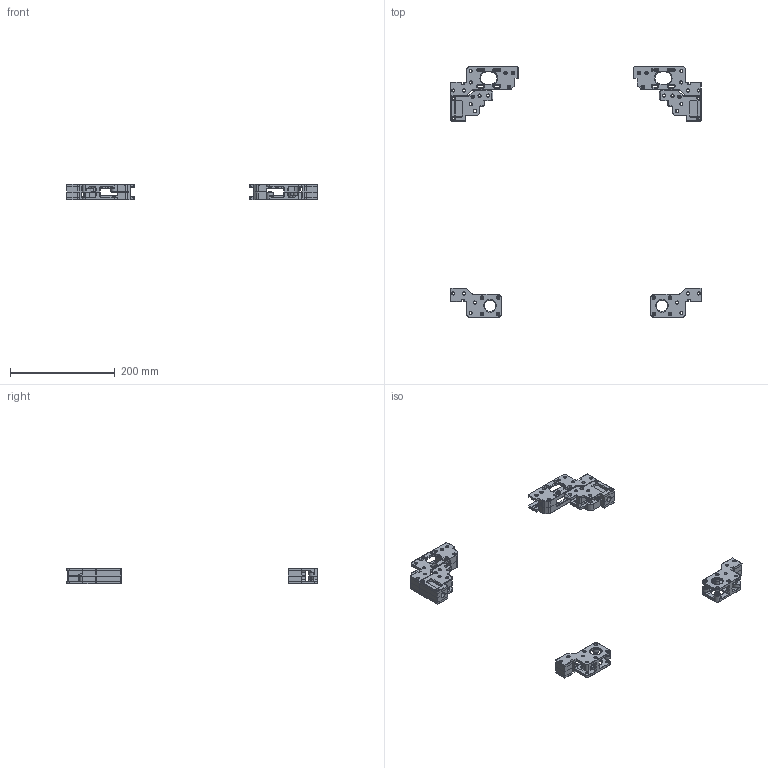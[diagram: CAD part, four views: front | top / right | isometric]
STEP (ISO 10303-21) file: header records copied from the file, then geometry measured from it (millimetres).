
FILE_DESCRIPTION(/* description */ (''),/* implementation_level */ '2;1');
FILE_NAME(/* name */ 'Steph''s Removable Y 8mm Rods (1).step',/* time_stamp */ '2024-08-22T23:35:47-04:00',/* author */ (''),/* organization */ (''),/* preprocessor_version */ 'ST-DEVELOPER v20',/* originating_system */ 'Autodesk Translation Framework v13.14.0.145',/* authorisation */ '');
FILE_SCHEMA (('AUTOMOTIVE_DESIGN { 1 0 10303 214 3 1 1 }'));
Products named in the file (14): Steph's Removable Y 8mm Rods (1); Printed Parts (12) (1); rear a upper motor mount; rear a lower motor mount; rear b upper motor mount; rear b lower motor mount; front a1 upper motor mount; front a1 lower motor mount; front b1 upper motor mount; front b1 lower motor mount; gates x carriage top left; gates x carraige bottom left; gates x carraige top right; gates x carriage bottom right
Assembly tree (13 placements, depth 3):
  Steph's Removable Y 8mm Rods (1)
    Printed Parts (12) (1)
      rear a upper motor mount
      rear a lower motor mount
      rear b upper motor mount
      rear b lower motor mount
      front a1 upper motor mount
      front a1 lower motor mount
      front b1 upper motor mount
      front b1 lower motor mount
      gates x carriage top left
      gates x carraige bottom left
      gates x carraige top right
      gates x carriage bottom right
Bounding box: 478.05 x 478.04 x 30.01 mm (x, y, z)
Volume: 338294.2 mm3; surface area: 174748.5 mm2
Topology: 24 solids, 24 shells, 2533 faces, 6323 edges, 3860 vertices
Faces by surface type: plane 1635, cone 460, cylinder 402, torus 20, bspline 16
Full cylindrical faces by diameter (mm): 1.8 x2, 3.2 x16, 3.4 x28, 4.7 x13, 5.2 x48, 5.3 x8, 5.4 x8, 6 x24, 10 x2, 12.4 x4, 22 x2, 23.75 x2
Entity records: 79790 total; most frequent: CARTESIAN_POINT 17759, DIRECTION 12956, ORIENTED_EDGE 12622, EDGE_CURVE 6311, LINE 4658, VECTOR 4658, AXIS2_PLACEMENT_3D 4149, VERTEX_POINT 3860
